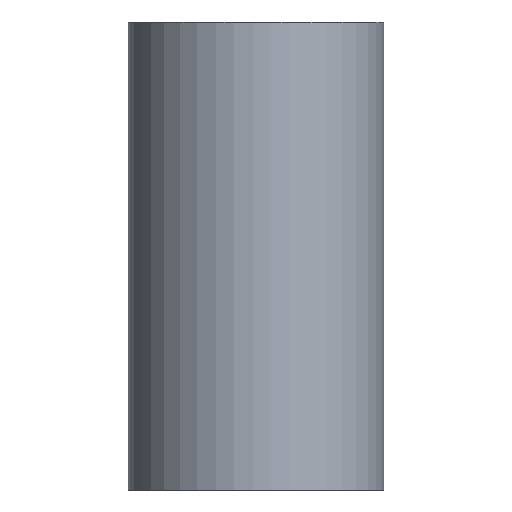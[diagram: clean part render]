
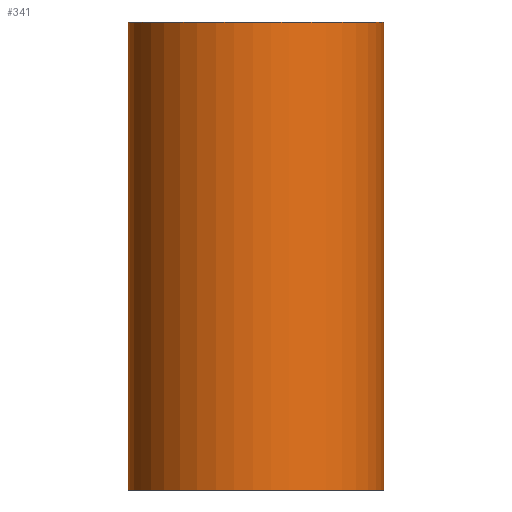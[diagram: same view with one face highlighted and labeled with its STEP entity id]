
A CAD part, left-side view. The second image highlights one B-rep face of the part: STEP entity #341.
In plain terms, the highlighted free-form (B-spline) face has degree [2, 1] with [5, 2] control points.
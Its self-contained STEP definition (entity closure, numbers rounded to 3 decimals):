
#341=ADVANCED_FACE('',(#472),#2573,.T.);
#472=FACE_OUTER_BOUND('',#606,.T.);
#606=EDGE_LOOP('',(#814,#815,#816,#817));
#814=ORIENTED_EDGE('',*,*,#1378,.F.);
#815=ORIENTED_EDGE('',*,*,#1382,.F.);
#816=ORIENTED_EDGE('',*,*,#1383,.T.);
#817=ORIENTED_EDGE('',*,*,#1380,.F.);
#1378=EDGE_CURVE('',#2246,#2247,#1962,.T.);
#1380=EDGE_CURVE('',#2247,#2248,#1794,.T.);
#1382=EDGE_CURVE('',#2249,#2246,#1795,.T.);
#1383=EDGE_CURVE('',#2249,#2248,#1965,.T.);
#1794=B_SPLINE_CURVE_WITH_KNOTS('',1,(#3486,#3487),.UNSPECIFIED.,.F.,.F.,
(2,2),(0.,110.),.UNSPECIFIED.);
#1795=B_SPLINE_CURVE_WITH_KNOTS('',1,(#3493,#3494),.UNSPECIFIED.,.F.,.F.,
(2,2),(-110.,0.),.UNSPECIFIED.);
#1962=(
BOUNDED_CURVE()
B_SPLINE_CURVE(2,(#3476,#3477,#3478,#3479,#3480),.UNSPECIFIED.,.F.,.F.)
B_SPLINE_CURVE_WITH_KNOTS((3,2,3),(0.,47.124,94.248),
 .UNSPECIFIED.)
CURVE()
GEOMETRIC_REPRESENTATION_ITEM()
RATIONAL_B_SPLINE_CURVE((1.,0.707,1.,0.707,1.))
REPRESENTATION_ITEM('')
);
#1965=(
BOUNDED_CURVE()
B_SPLINE_CURVE(2,(#3495,#3496,#3497,#3498,#3499),.UNSPECIFIED.,.F.,.F.)
B_SPLINE_CURVE_WITH_KNOTS((3,2,3),(0.,47.124,94.248),
 .UNSPECIFIED.)
CURVE()
GEOMETRIC_REPRESENTATION_ITEM()
RATIONAL_B_SPLINE_CURVE((1.,0.707,1.,0.707,1.))
REPRESENTATION_ITEM('')
);
#2246=VERTEX_POINT('',#3454);
#2247=VERTEX_POINT('',#3455);
#2248=VERTEX_POINT('',#3456);
#2249=VERTEX_POINT('',#3457);
#2573=(
BOUNDED_SURFACE()
B_SPLINE_SURFACE(2,1,((#3349,#3350),(#3351,#3352),(#3353,#3354),(#3355,
#3356),(#3357,#3358)),.UNSPECIFIED.,.F.,.F.,.F.)
B_SPLINE_SURFACE_WITH_KNOTS((3,2,3),(2,2),(-94.248,-47.124,
0.),(0.,110.),.UNSPECIFIED.)
GEOMETRIC_REPRESENTATION_ITEM()
RATIONAL_B_SPLINE_SURFACE(((1.,1.),(0.707,0.707),
(1.,1.),(0.707,0.707),(1.,1.)))
REPRESENTATION_ITEM('')
SURFACE()
);
#3349=CARTESIAN_POINT('',(0.,25.,55.));
#3350=CARTESIAN_POINT('',(0.,25.,-55.));
#3351=CARTESIAN_POINT('',(-30.,25.,55.));
#3352=CARTESIAN_POINT('',(-30.,25.,-55.));
#3353=CARTESIAN_POINT('',(-30.,55.,55.));
#3354=CARTESIAN_POINT('',(-30.,55.,-55.));
#3355=CARTESIAN_POINT('',(-30.,85.,55.));
#3356=CARTESIAN_POINT('',(-30.,85.,-55.));
#3357=CARTESIAN_POINT('',(0.,85.,55.));
#3358=CARTESIAN_POINT('',(0.,85.,-55.));
#3454=CARTESIAN_POINT('',(0.,85.,55.));
#3455=CARTESIAN_POINT('',(0.,25.,55.));
#3456=CARTESIAN_POINT('',(0.,25.,-55.));
#3457=CARTESIAN_POINT('',(0.,85.,-55.));
#3476=CARTESIAN_POINT('',(0.,85.,55.));
#3477=CARTESIAN_POINT('',(-30.,85.,55.));
#3478=CARTESIAN_POINT('',(-30.,55.,55.));
#3479=CARTESIAN_POINT('',(-30.,25.,55.));
#3480=CARTESIAN_POINT('',(0.,25.,55.));
#3486=CARTESIAN_POINT('',(0.,25.,55.));
#3487=CARTESIAN_POINT('',(0.,25.,-55.));
#3493=CARTESIAN_POINT('',(0.,85.,-55.));
#3494=CARTESIAN_POINT('',(0.,85.,55.));
#3495=CARTESIAN_POINT('',(0.,85.,-55.));
#3496=CARTESIAN_POINT('',(-30.,85.,-55.));
#3497=CARTESIAN_POINT('',(-30.,55.,-55.));
#3498=CARTESIAN_POINT('',(-30.,25.,-55.));
#3499=CARTESIAN_POINT('',(0.,25.,-55.));
